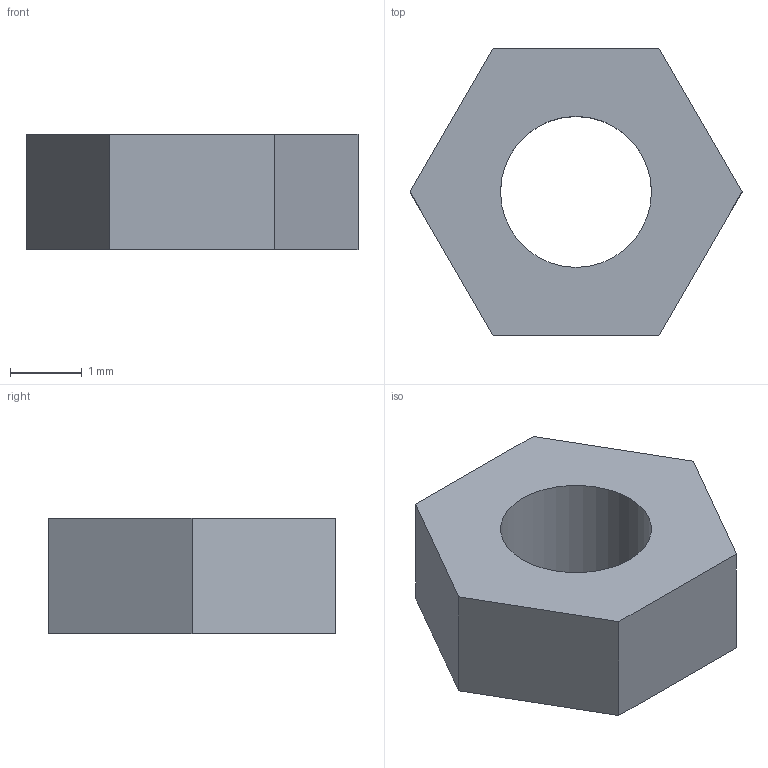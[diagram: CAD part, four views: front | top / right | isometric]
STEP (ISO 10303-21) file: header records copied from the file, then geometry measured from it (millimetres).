
FILE_DESCRIPTION(('Open CASCADE Model'),'2;1');
FILE_NAME('Open CASCADE Shape Model','2026-09-09T10:24:07',('Author'),( 'Open CASCADE'),'Open CASCADE STEP processor 7.8','Open CASCADE 7.8' ,'Unknown');
FILE_SCHEMA(('AUTOMOTIVE_DESIGN { 1 0 10303 214 1 1 1 1 }'));
Length unit declared in the file: millimetre
Products named in the file (1): Open CASCADE STEP translator 7.8 25
Bounding box: 4.62 x 4 x 1.6 mm (x, y, z)
Volume: 16.6 mm3; surface area: 53.5 mm2
Topology: 1 solids, 1 shells, 9 faces, 21 edges, 14 vertices
Faces by surface type: plane 8, cylinder 1
Full cylindrical faces by diameter (mm): 2.1 x1
Entity records: 544 total; most frequent: CARTESIAN_POINT 87, DIRECTION 85, LINE 59, VECTOR 59, ORIENTED_EDGE 42, PCURVE 42, DEFINITIONAL_REPRESENTATION 42, EDGE_CURVE 21
